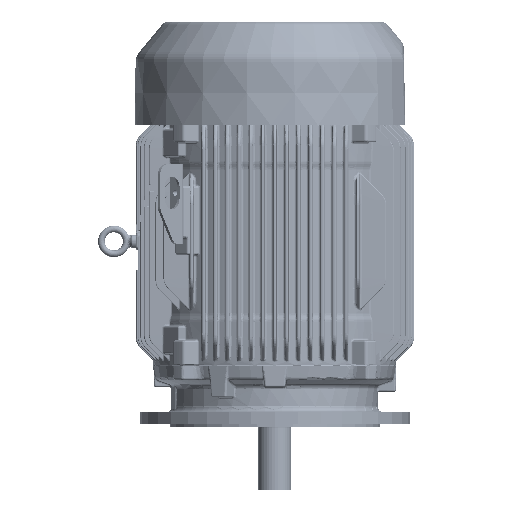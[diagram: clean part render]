
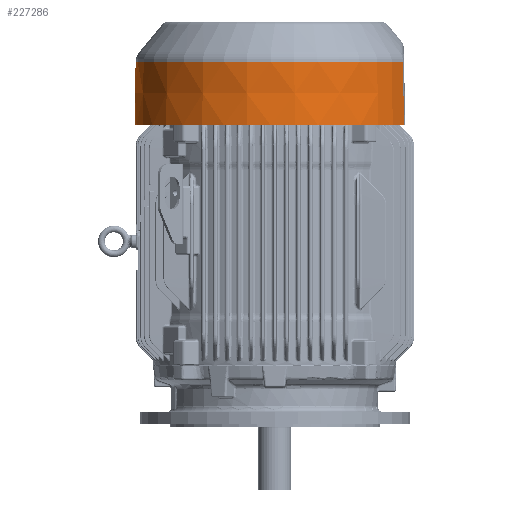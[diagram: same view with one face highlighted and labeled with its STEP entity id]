
A CAD part, left-side view. The second image highlights one B-rep face of the part: STEP entity #227286.
In plain terms, the highlighted conical face has half-angle 1 degrees and reference radius 233.124 mm.
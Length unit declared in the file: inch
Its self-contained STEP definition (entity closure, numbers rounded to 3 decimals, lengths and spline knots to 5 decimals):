
#221364=CARTESIAN_POINT('',(-3.60457,-8.48033,0.));
#221376=CARTESIAN_POINT('',(3.60457,-8.48033,0.));
#221382=CARTESIAN_POINT('',(-3.59136,-8.40669,
-4.17906));
#221383=CARTESIAN_POINT('',(-3.59246,-8.41281,
-3.83188));
#221384=CARTESIAN_POINT('',(-3.59463,-8.42493,
-3.14247));
#221385=CARTESIAN_POINT('',(-3.59779,-8.44253,
-2.14475));
#221386=CARTESIAN_POINT('',(-3.60104,-8.46061,
-1.11863));
#221387=CARTESIAN_POINT('',(-3.60337,-8.47363,
-0.37999));
#221388=CARTESIAN_POINT('',(-3.60457,-8.48033,0.));
#221390=CARTESIAN_POINT('',(0.,0.,-4.17906));
#221391=DIRECTION('',(0.,0.,-1.));
#221392=DIRECTION('',(-0.393,-0.92,0.));
#221393=AXIS2_PLACEMENT_3D('',#221390,#221391,#221392);
#221395=CARTESIAN_POINT('',(3.60457,-8.48033,0.));
#221396=CARTESIAN_POINT('',(3.60357,-8.47474,
-0.31672));
#221397=CARTESIAN_POINT('',(3.60153,-8.46334,
-0.96364));
#221398=CARTESIAN_POINT('',(3.59836,-8.4457,
-1.96446));
#221399=CARTESIAN_POINT('',(3.595,-8.427,
-3.02559));
#221400=CARTESIAN_POINT('',(3.59259,-8.41359,
-3.7864));
#221401=CARTESIAN_POINT('',(3.59135,-8.40667,
-4.17906));
#221403=CARTESIAN_POINT('',(0.,0.,0.));
#221404=DIRECTION('',(0.,0.,1.));
#221405=DIRECTION('',(0.391,-0.92,0.));
#221406=AXIS2_PLACEMENT_3D('',#221403,#221404,#221405);
#225615=VERTEX_POINT('',#221364);
#225618=VERTEX_POINT('',#221382);
#225625=CARTESIAN_POINT('',(3.59124,-8.40671,
-4.17906));
#225626=VERTEX_POINT('',#225625);
#225628=VERTEX_POINT('',#221376);
#227274=CARTESIAN_POINT('',(0.,0.,-2.08953));
#227275=DIRECTION('',(0.,0.,1.));
#227276=DIRECTION('',(0.,1.,0.));
#227277=AXIS2_PLACEMENT_3D('',#227274,#227275,#227276);
#227278=CONICAL_SURFACE('',#227277,9.17813,1.);
#227279=ORIENTED_EDGE('',*,*,#227255,.F.);
#227280=ORIENTED_EDGE('',*,*,#227101,.T.);
#227282=ORIENTED_EDGE('',*,*,#227281,.F.);
#227283=ORIENTED_EDGE('',*,*,#227266,.T.);
#227284=EDGE_LOOP('',(#227279,#227280,#227282,#227283));
#227285=FACE_OUTER_BOUND('',#227284,.F.);
#227286=ADVANCED_FACE('',(#227285),#227278,.T.);
#221389=B_SPLINE_CURVE_WITH_KNOTS('',3,(#221382,#221383,#221384,#221385,#221386,
#221387,#221388),.UNSPECIFIED.,.F.,.F.,(4,1,1,1,4),(0.,0.25,0.5,0.75,
1.),.UNSPECIFIED.);
#221394=CIRCLE('',#221393,9.14165);
#221402=B_SPLINE_CURVE_WITH_KNOTS('',3,(#221395,#221396,#221397,#221398,#221399,
#221400,#221401),.UNSPECIFIED.,.F.,.F.,(4,1,1,1,4),(0.,0.25,0.5,0.75,
1.),.UNSPECIFIED.);
#221407=CIRCLE('',#221406,9.2146);
#227101=EDGE_CURVE('',#225618,#225626,#221394,.T.);
#227255=EDGE_CURVE('',#225618,#225615,#221389,.T.);
#227266=EDGE_CURVE('',#225628,#225615,#221407,.T.);
#227281=EDGE_CURVE('',#225628,#225626,#221402,.T.);
